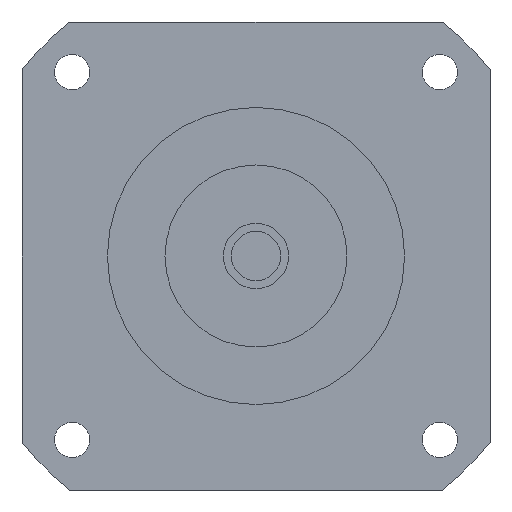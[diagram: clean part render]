
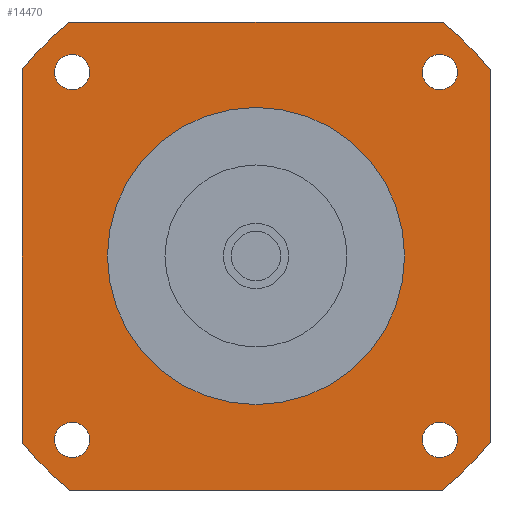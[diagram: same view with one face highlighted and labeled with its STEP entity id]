
A CAD part, left-side view. The second image highlights one B-rep face of the part: STEP entity #14470.
In plain terms, the highlighted planar face has unit normal (-1, 0, 0) as drawn and (0, 0, -1) by its records, which use the part's own axes.
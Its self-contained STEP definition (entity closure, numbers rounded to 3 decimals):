
#10130=CARTESIAN_POINT('',(90.,71.589,-66.7));
#10140=VERTEX_POINT('',#10130);
#10190=CARTESIAN_POINT('',(90.,90.,-66.7));
#10200=DIRECTION('',(0.,-1.,0.));
#10210=VECTOR('',#10200,1000.);
#10220=LINE('',#10190,#10210);
#10230=CARTESIAN_POINT('',(90.,-71.589,-66.7));
#10240=VERTEX_POINT('',#10230);
#10250=EDGE_CURVE('',#10140,#10240,#10220,.T.);
#10640=CARTESIAN_POINT('',(63.961,-70.711,-66.7));
#10650=VERTEX_POINT('',#10640);
#10680=CARTESIAN_POINT('',(70.711,-70.711,-66.7));
#10690=DIRECTION('',(0.,0.,-1.));
#10700=DIRECTION('',(1.,0.,0.));
#10710=AXIS2_PLACEMENT_3D('',#10680,#10690,#10700);
#10720=CIRCLE('',#10710,6.75);
#10730=CARTESIAN_POINT('',(77.461,-70.711,-66.7));
#10740=VERTEX_POINT('',#10730);
#10750=EDGE_CURVE('',#10740,#10650,#10720,.T.);
#12990=CARTESIAN_POINT('',(70.711,63.961,-66.7));
#13000=VERTEX_POINT('',#12990);
#13030=CARTESIAN_POINT('',(70.711,70.711,-66.7));
#13040=DIRECTION('',(0.,0.,-1.));
#13050=DIRECTION('',(0.,1.,0.));
#13060=AXIS2_PLACEMENT_3D('',#13030,#13040,#13050);
#13070=CIRCLE('',#13060,6.75);
#13080=CARTESIAN_POINT('',(70.711,77.461,-66.7));
#13090=VERTEX_POINT('',#13080);
#13100=EDGE_CURVE('',#13090,#13000,#13070,.T.);
#13220=CARTESIAN_POINT('',(90.,90.,-66.7));
#13230=DIRECTION('',(0.,0.,-1.));
#13240=DIRECTION('',(1.,0.,0.));
#13250=AXIS2_PLACEMENT_3D('',#13220,#13230,#13240);
#13260=PLANE('',#13250);
#13270=CARTESIAN_POINT('',(-70.711,-70.711,-66.7));
#13280=DIRECTION('',(0.,0.,-1.));
#13290=DIRECTION('',(0.,-1.,0.));
#13300=AXIS2_PLACEMENT_3D('',#13270,#13280,#13290);
#13310=CIRCLE('',#13300,6.75);
#13320=CARTESIAN_POINT('',(-70.711,-77.461,-66.7));
#13330=VERTEX_POINT('',#13320);
#13340=CARTESIAN_POINT('',(-70.711,-63.961,-66.7));
#13350=VERTEX_POINT('',#13340);
#13360=EDGE_CURVE('',#13330,#13350,#13310,.T.);
#13370=ORIENTED_EDGE('',*,*,#13360,.F.);
#13380=EDGE_CURVE('',#13350,#13330,#13310,.T.);
#13390=ORIENTED_EDGE('',*,*,#13380,.F.);
#13400=EDGE_LOOP('',(#13390,#13370));
#13410=FACE_BOUND('',#13400,.T.);
#13420=CARTESIAN_POINT('',(-70.711,70.711,-66.7));
#13430=DIRECTION('',(0.,0.,-1.));
#13440=DIRECTION('',(-1.,0.,0.));
#13450=AXIS2_PLACEMENT_3D('',#13420,#13430,#13440);
#13460=CIRCLE('',#13450,6.75);
#13470=CARTESIAN_POINT('',(-77.461,70.711,-66.7));
#13480=VERTEX_POINT('',#13470);
#13490=CARTESIAN_POINT('',(-63.961,70.711,-66.7));
#13500=VERTEX_POINT('',#13490);
#13510=EDGE_CURVE('',#13480,#13500,#13460,.T.);
#13520=ORIENTED_EDGE('',*,*,#13510,.F.);
#13530=EDGE_CURVE('',#13500,#13480,#13460,.T.);
#13540=ORIENTED_EDGE('',*,*,#13530,.F.);
#13550=EDGE_LOOP('',(#13540,#13520));
#13560=FACE_BOUND('',#13550,.T.);
#13570=ORIENTED_EDGE('',*,*,#13100,.F.);
#13580=EDGE_CURVE('',#13000,#13090,#13070,.T.);
#13590=ORIENTED_EDGE('',*,*,#13580,.F.);
#13600=EDGE_LOOP('',(#13590,#13570));
#13610=FACE_BOUND('',#13600,.T.);
#13620=CARTESIAN_POINT('',(0.,0.,
-66.7));
#13630=DIRECTION('',(0.,0.,1.));
#13640=DIRECTION('',(0.,1.,0.));
#13650=AXIS2_PLACEMENT_3D('',#13620,#13630,#13640);
#13660=CIRCLE('',#13650,57.15);
#13670=CARTESIAN_POINT('',(-57.15,0.,-66.7));
#13680=VERTEX_POINT('',#13670);
#13690=CARTESIAN_POINT('',(57.15,0.,-66.7));
#13700=VERTEX_POINT('',#13690);
#13710=EDGE_CURVE('',#13680,#13700,#13660,.T.);
#13720=ORIENTED_EDGE('',*,*,#13710,.T.);
#13730=CARTESIAN_POINT('',(0.,57.15,-66.7));
#13740=VERTEX_POINT('',#13730);
#13750=EDGE_CURVE('',#13740,#13680,#13660,.T.);
#13760=ORIENTED_EDGE('',*,*,#13750,.T.);
#13770=EDGE_CURVE('',#13700,#13740,#13660,.T.);
#13780=ORIENTED_EDGE('',*,*,#13770,.T.);
#13790=EDGE_LOOP('',(#13780,#13760,#13720));
#13800=FACE_BOUND('',#13790,.T.);
#13810=CARTESIAN_POINT('',(-90.,90.,-66.7));
#13820=DIRECTION('',(1.,0.,0.));
#13830=VECTOR('',#13820,1000.);
#13840=LINE('',#13810,#13830);
#13850=CARTESIAN_POINT('',(-71.589,90.,-66.7));
#13860=VERTEX_POINT('',#13850);
#13870=CARTESIAN_POINT('',(71.589,90.,-66.7));
#13880=VERTEX_POINT('',#13870);
#13890=EDGE_CURVE('',#13860,#13880,#13840,.T.);
#13900=ORIENTED_EDGE('',*,*,#13890,.T.);
#13910=CARTESIAN_POINT('',(0.,0.,
-66.7));
#13920=DIRECTION('',(0.,0.,-1.));
#13930=DIRECTION('',(1.,0.,0.));
#13940=AXIS2_PLACEMENT_3D('',#13910,#13920,#13930);
#13950=CIRCLE('',#13940,115.);
#13960=CARTESIAN_POINT('',(-90.,71.589,-66.7));
#13970=VERTEX_POINT('',#13960);
#13980=EDGE_CURVE('',#13970,#13860,#13950,.T.);
#13990=ORIENTED_EDGE('',*,*,#13980,.T.);
#14000=CARTESIAN_POINT('',(-90.,-90.,-66.7));
#14010=DIRECTION('',(0.,1.,0.));
#14020=VECTOR('',#14010,1000.);
#14030=LINE('',#14000,#14020);
#14040=CARTESIAN_POINT('',(-90.,-71.589,-66.7));
#14050=VERTEX_POINT('',#14040);
#14060=EDGE_CURVE('',#14050,#13970,#14030,.T.);
#14070=ORIENTED_EDGE('',*,*,#14060,.T.);
#14080=CARTESIAN_POINT('',(0.,0.,
-66.7));
#14090=DIRECTION('',(0.,0.,-1.));
#14100=DIRECTION('',(1.,0.,0.));
#14110=AXIS2_PLACEMENT_3D('',#14080,#14090,#14100);
#14120=CIRCLE('',#14110,115.);
#14130=CARTESIAN_POINT('',(-71.589,-90.,-66.7));
#14140=VERTEX_POINT('',#14130);
#14150=EDGE_CURVE('',#14140,#14050,#14120,.T.);
#14160=ORIENTED_EDGE('',*,*,#14150,.T.);
#14170=CARTESIAN_POINT('',(90.,-90.,-66.7));
#14180=DIRECTION('',(-1.,0.,0.));
#14190=VECTOR('',#14180,1000.);
#14200=LINE('',#14170,#14190);
#14210=CARTESIAN_POINT('',(71.589,-90.,-66.7));
#14220=VERTEX_POINT('',#14210);
#14230=EDGE_CURVE('',#14220,#14140,#14200,.T.);
#14240=ORIENTED_EDGE('',*,*,#14230,.T.);
#14250=CARTESIAN_POINT('',(0.,0.,
-66.7));
#14260=DIRECTION('',(0.,0.,-1.));
#14270=DIRECTION('',(1.,0.,0.));
#14280=AXIS2_PLACEMENT_3D('',#14250,#14260,#14270);
#14290=CIRCLE('',#14280,115.);
#14300=EDGE_CURVE('',#10240,#14220,#14290,.T.);
#14310=ORIENTED_EDGE('',*,*,#14300,.T.);
#14320=ORIENTED_EDGE('',*,*,#10250,.T.);
#14330=CARTESIAN_POINT('',(0.,0.,
-66.7));
#14340=DIRECTION('',(0.,0.,-1.));
#14350=DIRECTION('',(1.,0.,0.));
#14360=AXIS2_PLACEMENT_3D('',#14330,#14340,#14350);
#14370=CIRCLE('',#14360,115.);
#14380=EDGE_CURVE('',#13880,#10140,#14370,.T.);
#14390=ORIENTED_EDGE('',*,*,#14380,.T.);
#14400=EDGE_LOOP('',(#14390,#14320,#14310,#14240,#14160,#14070,#13990,
#13900));
#14410=FACE_OUTER_BOUND('',#14400,.T.);
#14420=ORIENTED_EDGE('',*,*,#10750,.F.);
#14430=EDGE_CURVE('',#10650,#10740,#10720,.T.);
#14440=ORIENTED_EDGE('',*,*,#14430,.F.);
#14450=EDGE_LOOP('',(#14440,#14420));
#14460=FACE_BOUND('',#14450,.T.);
#14470=ADVANCED_FACE('',(#13410,#13560,#13610,#13800,#14410,#14460),
#13260,.T.);
